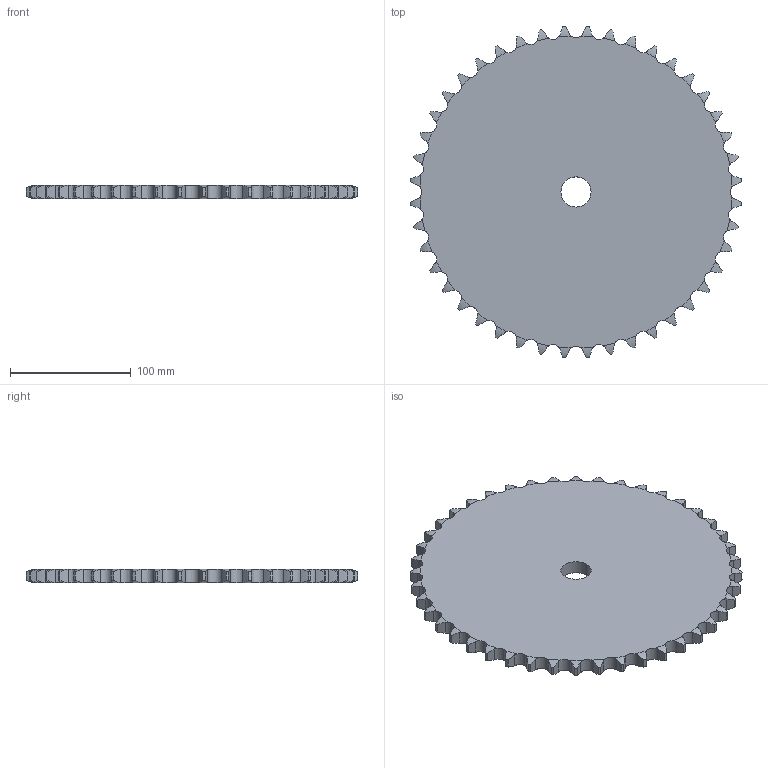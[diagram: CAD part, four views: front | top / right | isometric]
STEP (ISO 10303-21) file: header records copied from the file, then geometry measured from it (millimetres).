
FILE_DESCRIPTION((''),'2;1');
FILE_NAME('500-401-0044_PRT','2021-02-12T',('Brieden'),('Brieden'),'PRO/ENGINEER BY PARAMETRIC TECHNOLOGY CORPORATION, 2010160','PRO/ENGINEER BY PARAMETRIC TECHNOLOGY CORPORATION, 2010160','');
FILE_SCHEMA(('AUTOMOTIVE_DESIGN { 1 0 10303 214 1 1 1 1 }'));
Length unit declared in the file: millimetre
Products named in the file (1): 500-401-0044_PRT
Bounding box: 274.14 x 274.14 x 11.1 mm (x, y, z)
Volume: 592948.8 mm3; surface area: 121319.9 mm2
Topology: 1 solids, 1 shells, 268 faces, 798 edges, 532 vertices
Faces by surface type: cylinder 178, torus 88, plane 2
Entity records: 13316 total; most frequent: CARTESIAN_POINT 4083, ORIENTED_EDGE 1596, DIRECTION 1250, PRESENTATION_STYLE_ASSIGNMENT 799, STYLED_ITEM 799, CURVE_STYLE 798, EDGE_CURVE 798, AXIS2_PLACEMENT_3D 536
